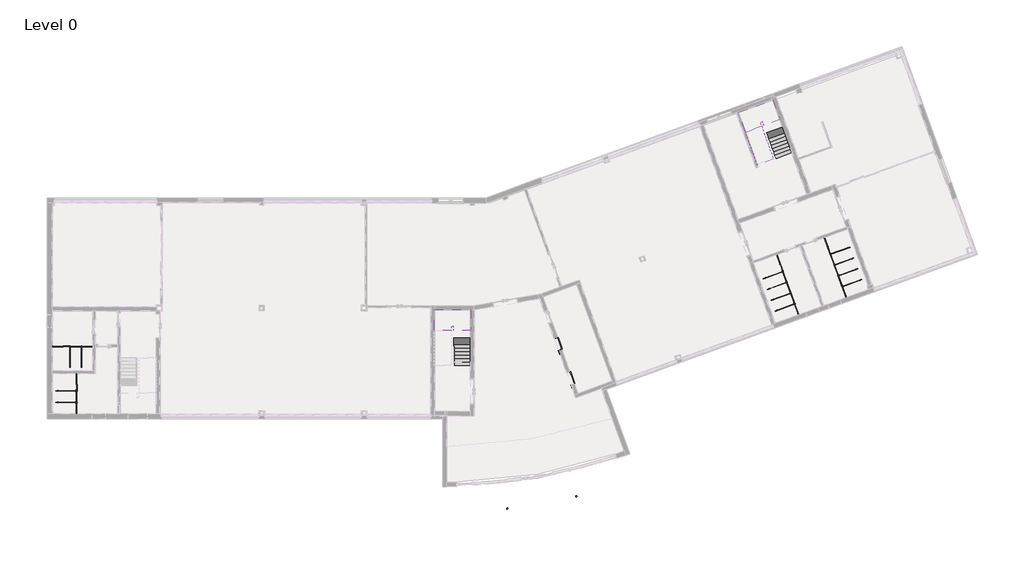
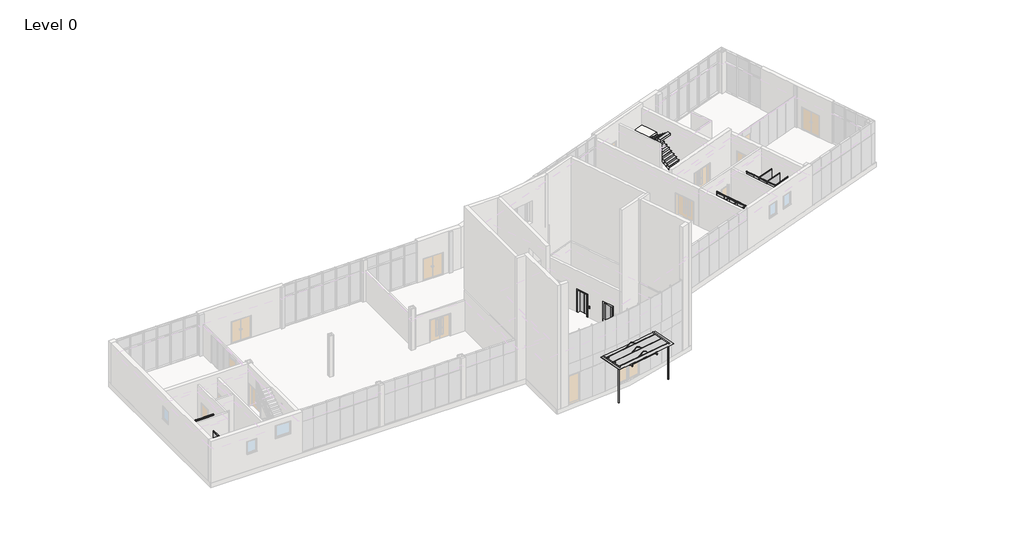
# One storey, part 14 of 14: 20 flow terminals, 3 proxies, 3 stair flights, 2 slabs.
"""IFC4 building model written with IfcOpenShell, lengths in millimetres."""

from ifc_helpers import new_model, si_unit, frame, origin, place, context, project, spatial, polyline, outline, extrude, faceted_brep, transform, mapped, element, save
from components import commercial_canopy_entrance_cladding_canopy_659b45ad, specialty_equipment_lift_assembly_13_person_wide_car_fb916a52, flow_terminal_2100mm_height_12b2e6eb, flow_terminal_2100mm_height_1f2eed72, flow_terminal_2100mm_height_0595ce71, flow_terminal_2100mm_height_2c32aa6e, flow_terminal_2100mm_height_6680c838, plumbing_fixtures_cubicle_corner_end_2100mm_height_8010d271, plumbing_fixtures_cubicle_corner_end_2100mm_height_71efdfa1

model = new_model("IFC4")

# Units and contexts
model_context = context("Model", 3, world=origin())
ifc_project = project(units=[si_unit("LENGTHUNIT", "METRE", prefix="MILLI")], contexts=[model_context])

# Site, building, storey
site = spatial("IfcSite", under=ifc_project)
building = spatial("IfcBuilding", under=site)
storey = spatial("IfcBuildingStorey", under=building, Name="Level 0", Elevation=0.0)

# Proxies
placement = place(None, origin())
commercial_canopy_entrance_cladding_canopy_shape = commercial_canopy_entrance_cladding_canopy_659b45ad(model_context)
element("IfcBuildingElementProxy", 1, Name="Commercial_Canopy_Entrance : Cladding_Canopy", ObjectType="Commercial_Canopy_Entrance : Cladding_Canopy", at=placement, inside=storey, context=model_context, shape_type="MappedRepresentation", body=[
    mapped(commercial_canopy_entrance_cladding_canopy_shape, transform((35218.8424739, -4156.0059595, 0.0), x_axis=(0.984821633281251, 0.1735694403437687, 0.0), y_axis=(-0.1735694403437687, 0.984821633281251, 0.0), z_axis=(0.0, 0.0, 1.0))),
])
specialty_equipment_lift_assembly_13_person_wide_car_shape = specialty_equipment_lift_assembly_13_person_wide_car_fb916a52(model_context)
element("IfcBuildingElementProxy", 2, Name="Specialty_Equipment_Lift_Assembly : 13_Person-Wide_Car", ObjectType="Specialty_Equipment_Lift_Assembly : 13_Person-Wide_Car", at=placement, inside=storey, context=model_context, shape_type="MappedRepresentation", body=[
    mapped(specialty_equipment_lift_assembly_13_person_wide_car_shape, transform((36402.6729068, 5528.4769863, 0.0), x_axis=(-0.34202014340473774, 0.9396926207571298, 0.0), y_axis=(-0.9396926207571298, -0.34202014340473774, 0.0), z_axis=(0.0, 0.0, 1.0))),
])
element("IfcBuildingElementProxy", 3, Name="Specialty_Equipment_Lift_Assembly : 13_Person-Wide_Car", ObjectType="Specialty_Equipment_Lift_Assembly : 13_Person-Wide_Car", at=placement, inside=storey, context=model_context, shape_type="MappedRepresentation", body=[
    mapped(specialty_equipment_lift_assembly_13_person_wide_car_shape, transform((37291.5468022, 3086.3160308, 0.0), x_axis=(-0.34202014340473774, 0.9396926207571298, 0.0), y_axis=(-0.9396926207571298, -0.34202014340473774, 0.0), z_axis=(0.0, 0.0, 1.0))),
])

# Flow terminals
flow_terminal_2100mm_height_shape = flow_terminal_2100mm_height_12b2e6eb(model_context)
element("IfcFlowTerminal", 4, ObjectType="Plumbing_Fixtures_Toilet_Cubicle_End_Adjacent_Wall : 2100mm_Height", at=placement, inside=storey, context=model_context, shape_type="MappedRepresentation", body=[
    mapped(flow_terminal_2100mm_height_shape, transform((50541.393351, 10685.9180507, 0.0), x_axis=(-0.3420201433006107, 0.9396926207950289, 0.0), y_axis=(-0.9396926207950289, -0.3420201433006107, 0.0), z_axis=(0.0, 0.0, 1.0))),
])
element("IfcFlowTerminal", 5, ObjectType="Plumbing_Fixtures_Toilet_Cubicle_End_Adjacent_Wall : 2100mm_Height", at=placement, inside=storey, context=model_context, shape_type="MappedRepresentation", body=[
    mapped(flow_terminal_2100mm_height_shape, transform((383.0, 2814.5689301, 0.0), x_axis=(2.5442148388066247e-11, 1.0, 0.0), y_axis=(-1.0, 2.5442148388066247e-11, 0.0), z_axis=(0.0, 0.0, 1.0))),
])
element("IfcFlowTerminal", 6, ObjectType="Plumbing_Fixtures_Toilet_Cubicle_End_Adjacent_Wall : 2100mm_Height", at=placement, inside=storey, context=model_context, shape_type="MappedRepresentation", body=[
    mapped(flow_terminal_2100mm_height_shape, transform((830.9310712, 3326.5000005, 0.0), x_axis=(-1.0, 2.5443536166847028e-11, 0.0), y_axis=(-2.5443536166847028e-11, -1.0, 0.0), z_axis=(0.0, 0.0, 1.0))),
])
flow_terminal_2100mm_height_2_shape = flow_terminal_2100mm_height_1f2eed72(model_context)
element("IfcFlowTerminal", 7, ObjectType="Plumbing_Fixtures_Toile_Cubicle_Extension_Panel : 2100mm_Height", at=placement, inside=storey, context=model_context, shape_type="MappedRepresentation", body=[
    mapped(flow_terminal_2100mm_height_2_shape, transform((50976.9218015, 9489.3134675, 0.0), x_axis=(-0.34202014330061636, 0.9396926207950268, 0.0), y_axis=(-0.9396926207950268, -0.34202014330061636, 0.0), z_axis=(0.0, 0.0, 1.0))),
])
flow_terminal_2100mm_height_3_shape = flow_terminal_2100mm_height_0595ce71(model_context)
element("IfcFlowTerminal", 8, ObjectType="Plumbing_Fixtures_Toile_Cubicle_Extension_Panel : 2100mm_Height", at=placement, inside=storey, context=model_context, shape_type="MappedRepresentation", body=[
    mapped(flow_terminal_2100mm_height_3_shape, transform((57719.2163556, 11943.3079956, 0.0), x_axis=(-0.3420201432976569, 0.9396926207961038, 0.0), y_axis=(-0.9396926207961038, -0.3420201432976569, 0.0), z_axis=(0.0, 0.0, 1.0))),
])
flow_terminal_2100mm_height_4_shape = flow_terminal_2100mm_height_2c32aa6e(model_context)
element("IfcFlowTerminal", 9, ObjectType="Plumbing_Fixtures_Toilet_Cubicle_End_Adjacent_Wall : 2100mm_Height", at=placement, inside=storey, context=model_context, shape_type="MappedRepresentation", body=[
    mapped(flow_terminal_2100mm_height_4_shape, transform((57283.6879051, 13139.9125789, 0.0), x_axis=(-0.3420201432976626, 0.9396926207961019, 0.0), y_axis=(-0.9396926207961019, -0.3420201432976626, 0.0), z_axis=(0.0, 0.0, 1.0))),
])
flow_terminal_2100mm_height_5_shape = flow_terminal_2100mm_height_6680c838(model_context)
element("IfcFlowTerminal", 10, ObjectType="Plumbing_Fixtures_Toile_Cubicle_Extension_Panel : 2100mm_Height", at=placement, inside=storey, context=model_context, shape_type="MappedRepresentation", body=[
    mapped(flow_terminal_2100mm_height_5_shape, transform((383.0, 1565.0689299, 0.0), x_axis=(0.0, 1.0, 0.0), y_axis=(-1.0, 0.0, 0.0), z_axis=(0.0, 0.0, 1.0))),
])
element("IfcFlowTerminal", 11, ObjectType="Plumbing_Fixtures_Toile_Cubicle_Extension_Panel : 2100mm_Height", at=placement, inside=storey, context=model_context, shape_type="MappedRepresentation", body=[
    mapped(flow_terminal_2100mm_height_5_shape, transform((2080.4310713, 3326.5000005, 0.0), x_axis=(-1.0, 0.0, 0.0), y_axis=(0.0, -1.0, 0.0), z_axis=(0.0, 0.0, 1.0))),
])
plumbing_fixtures_cubicle_corner_end_2100mm_height_shape = plumbing_fixtures_cubicle_corner_end_2100mm_height_8010d271(model_context)
element("IfcFlowTerminal", 12, ObjectType="Plumbing_Fixtures_Cubicle_Corner_End : 2100mm_Height", at=placement, inside=storey, context=model_context, shape_type="MappedRepresentation", body=[
    mapped(plumbing_fixtures_cubicle_corner_end_2100mm_height_shape, transform((58572.2617435, 9599.5850544, 0.0), x_axis=(0.3420201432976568, -0.9396926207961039, 0.0), y_axis=(0.9396926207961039, 0.3420201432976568, 0.0), z_axis=(0.0, 0.0, 1.0))),
])
element("IfcFlowTerminal", 13, ObjectType="Plumbing_Fixtures_Cubicle_Corner_End : 2100mm_Height", at=placement, inside=storey, context=model_context, shape_type="MappedRepresentation", body=[
    mapped(plumbing_fixtures_cubicle_corner_end_2100mm_height_shape, transform((58291.805226, 10370.1330034, 0.0), x_axis=(0.3420201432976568, -0.9396926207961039, 0.0), y_axis=(0.9396926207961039, 0.3420201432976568, 0.0), z_axis=(0.0, 0.0, 1.0))),
])
element("IfcFlowTerminal", 14, ObjectType="Plumbing_Fixtures_Cubicle_Corner_End : 2100mm_Height", at=placement, inside=storey, context=model_context, shape_type="MappedRepresentation", body=[
    mapped(plumbing_fixtures_cubicle_corner_end_2100mm_height_shape, transform((58011.3487085, 11140.6809525, 0.0), x_axis=(0.3420201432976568, -0.9396926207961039, 0.0), y_axis=(0.9396926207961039, 0.3420201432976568, 0.0), z_axis=(0.0, 0.0, 1.0))),
])
element("IfcFlowTerminal", 15, ObjectType="Plumbing_Fixtures_Cubicle_Corner_End : 2100mm_Height", at=placement, inside=storey, context=model_context, shape_type="MappedRepresentation", body=[
    mapped(plumbing_fixtures_cubicle_corner_end_2100mm_height_shape, transform((57730.892191, 11911.2289015, 0.0), x_axis=(0.3420201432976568, -0.9396926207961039, 0.0), y_axis=(0.9396926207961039, 0.3420201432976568, 0.0), z_axis=(0.0, 0.0, 1.0))),
])
plumbing_fixtures_cubicle_corner_end_2100mm_height_2_shape = plumbing_fixtures_cubicle_corner_end_2100mm_height_71efdfa1(model_context)
element("IfcFlowTerminal", 16, ObjectType="Plumbing_Fixtures_Cubicle_Corner_End : 2100mm_Height", at=placement, inside=storey, context=model_context, shape_type="MappedRepresentation", body=[
    mapped(plumbing_fixtures_cubicle_corner_end_2100mm_height_2_shape, transform((51829.9671894, 7145.5905262, 0.0), x_axis=(0.3420201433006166, -0.9396926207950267, 0.0), y_axis=(0.9396926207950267, 0.3420201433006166, 0.0), z_axis=(0.0, 0.0, 1.0))),
])
element("IfcFlowTerminal", 17, ObjectType="Plumbing_Fixtures_Cubicle_Corner_End : 2100mm_Height", at=placement, inside=storey, context=model_context, shape_type="MappedRepresentation", body=[
    mapped(plumbing_fixtures_cubicle_corner_end_2100mm_height_2_shape, transform((51549.5106719, 7916.1384753, 0.0), x_axis=(0.3420201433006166, -0.9396926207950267, 0.0), y_axis=(0.9396926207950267, 0.3420201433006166, 0.0), z_axis=(0.0, 0.0, 1.0))),
])
element("IfcFlowTerminal", 18, ObjectType="Plumbing_Fixtures_Cubicle_Corner_End : 2100mm_Height", at=placement, inside=storey, context=model_context, shape_type="MappedRepresentation", body=[
    mapped(plumbing_fixtures_cubicle_corner_end_2100mm_height_2_shape, transform((51269.0541544, 8686.6864243, 0.0), x_axis=(0.3420201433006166, -0.9396926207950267, 0.0), y_axis=(0.9396926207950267, 0.3420201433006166, 0.0), z_axis=(0.0, 0.0, 1.0))),
])
element("IfcFlowTerminal", 19, ObjectType="Plumbing_Fixtures_Cubicle_Corner_End : 2100mm_Height", at=placement, inside=storey, context=model_context, shape_type="MappedRepresentation", body=[
    mapped(plumbing_fixtures_cubicle_corner_end_2100mm_height_2_shape, transform((50988.5976369, 9457.2343734, 0.0), x_axis=(0.3420201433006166, -0.9396926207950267, 0.0), y_axis=(0.9396926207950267, 0.3420201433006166, 0.0), z_axis=(0.0, 0.0, 1.0))),
])
element("IfcFlowTerminal", 20, ObjectType="Plumbing_Fixtures_Cubicle_Corner_End : 2100mm_Height", at=placement, inside=storey, context=model_context, shape_type="MappedRepresentation", body=[
    mapped(plumbing_fixtures_cubicle_corner_end_2100mm_height_2_shape, transform((383.0, 710.9310711, 0.0), x_axis=(-2.5442148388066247e-11, -1.0, 0.0), y_axis=(1.0, -2.5442148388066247e-11, 0.0), z_axis=(0.0, 0.0, 1.0))),
])
element("IfcFlowTerminal", 21, ObjectType="Plumbing_Fixtures_Cubicle_Corner_End : 2100mm_Height", at=placement, inside=storey, context=model_context, shape_type="MappedRepresentation", body=[
    mapped(plumbing_fixtures_cubicle_corner_end_2100mm_height_2_shape, transform((383.0, 1530.9310711, 0.0), x_axis=(-2.5442148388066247e-11, -1.0, 0.0), y_axis=(1.0, -2.5442148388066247e-11, 0.0), z_axis=(0.0, 0.0, 1.0))),
])
element("IfcFlowTerminal", 22, ObjectType="Plumbing_Fixtures_Cubicle_Corner_End : 2100mm_Height", at=placement, inside=storey, context=model_context, shape_type="MappedRepresentation", body=[
    mapped(plumbing_fixtures_cubicle_corner_end_2100mm_height_2_shape, transform((2934.5689301, 3326.5000005, 0.0), x_axis=(1.0, -2.5443536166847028e-11, 0.0), y_axis=(2.5443536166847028e-11, 1.0, 0.0), z_axis=(0.0, 0.0, 1.0))),
])
element("IfcFlowTerminal", 23, ObjectType="Plumbing_Fixtures_Cubicle_Corner_End : 2100mm_Height", at=placement, inside=storey, context=model_context, shape_type="MappedRepresentation", body=[
    mapped(plumbing_fixtures_cubicle_corner_end_2100mm_height_2_shape, transform((2114.5689301, 3326.5000005, 0.0), x_axis=(1.0, -2.5443536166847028e-11, 0.0), y_axis=(2.5443536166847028e-11, 1.0, 0.0), z_axis=(0.0, 0.0, 1.0))),
])

# Slabs
element("IfcSlab", 24, ObjectType="8\"_Thickness", at=placement, inside=storey, context=model_context, shape_type="SolidModel", body=[
    faceted_brep([(29052.2000029, 6263.2000006, 1949.0), (30252.200003, 6263.2000006, 1949.0), (30252.200003, 6490.4719159, 1949.0), (30252.200003, 7763.2000004, 1949.0), (27662.2000031, 7763.2000004, 1949.0), (27662.2000031, 6285.9280852, 1949.0), (27662.2000031, 6263.2000006, 1949.0), (28862.2000029, 6263.2000006, 1949.0), (28862.2000029, 6285.9280852, 1949.0), (28862.2000029, 6563.2000006, 1949.0), (29052.2000029, 6563.2000006, 1949.0), (29052.2000029, 6490.4719159, 1949.0), (29052.2000029, 6263.2000006, 1587.8435509), (29052.2000029, 6263.2000006, 1771.7272727), (29052.2000029, 6563.2000006, 1749.0), (29052.2000029, 6490.4719159, 1749.0), (30252.200003, 6263.2000006, 1771.7272727), (30252.200003, 6263.2000006, 1587.8435509), (30252.200003, 6490.4719159, 1749.0), (30252.200003, 7763.2000004, 1749.0), (28862.2000029, 6263.2000006, 1765.1162782), (28862.2000029, 6285.9280852, 1749.0), (28862.2000029, 6563.2000006, 1749.0), (27662.2000031, 6285.9280852, 1749.0), (27662.2000031, 7763.2000004, 1749.0), (27662.2000031, 6263.2000006, 1765.1162782)], [[[0, 1, 2, 3, 4, 5, 6, 7, 8, 9, 10, 11]], [[12, 13, 0, 11, 10, 14, 15]], [[1, 16, 17, 18, 19, 3, 2]], [[7, 20, 21, 22, 9, 8]], [[18, 15, 14, 22, 21, 23, 24, 19]], [[15, 18, 17, 12]], [[23, 21, 20, 25]], [[1, 0, 13, 12, 17, 16]], [[4, 3, 19, 24]], [[4, 24, 23, 25, 6, 5]], [[7, 6, 25, 20]], [[10, 9, 22, 14]]]),
    extrude(outline(polyline([(29052.2000029, 6263.2000006), (29052.2000029, 6563.2000006), (28862.2000029, 6563.2000006), (28862.2000029, 6263.2000006), (27662.2000031, 6263.2000006), (27662.2000031, 7763.2000004), (30252.200003, 7763.2000004), (30252.200003, 6263.2000006), (29052.2000029, 6263.2000006)])), frame((0.0, 0.0, 1949.0), z_axis=(0.0, 0.0, 1.0), x_axis=(1.0, 0.0, 0.0)), (0.0, 0.0, 1.0), 1.0),
])
element("IfcSlab", 25, ObjectType="8\"_Thickness", at=placement, inside=storey, context=model_context, shape_type="SolidModel", body=[
    faceted_brep([(51174.021156, 20890.1085605, 1949.0), (52301.652301, 21300.5327324, 1949.0), (52223.920728, 21514.0984742, 1949.0), (51788.6220861, 22710.0716635, 1949.0), (49354.8181983, 21824.2394924, 1949.0), (49860.0749505, 20436.0579748, 1949.0), (49867.8484132, 20414.7005613, 1949.0), (50995.479558, 20825.1247332, 1949.0), (50987.7060952, 20846.4821467, 1949.0), (50892.873515, 21107.0325195, 1949.0), (51071.415113, 21172.0163467, 1949.0), (51096.2895829, 21103.6743022, 1949.0), (51174.021156, 20890.1085605, 1587.8435509), (51174.021156, 20890.1085605, 1771.7272727), (51071.415113, 21172.0163467, 1749.0), (51096.2895829, 21103.6743022, 1749.0), (52301.652301, 21300.5327324, 1771.7272727), (52301.652301, 21300.5327324, 1587.8435509), (52223.920728, 21514.0984742, 1749.0), (51788.6220861, 22710.0716635, 1749.0), (50995.479558, 20825.1247332, 1765.1162782), (50987.7060952, 20846.4821467, 1749.0), (50892.873515, 21107.0325195, 1749.0), (49860.0749505, 20436.0579748, 1749.0), (49354.8181983, 21824.2394924, 1749.0), (49867.8484132, 20414.7005613, 1765.1162782)], [[[0, 1, 2, 3, 4, 5, 6, 7, 8, 9, 10, 11]], [[12, 13, 0, 11, 10, 14, 15]], [[1, 16, 17, 18, 19, 3, 2]], [[7, 20, 21, 22, 9, 8]], [[18, 15, 14, 22, 21, 23, 24, 19]], [[15, 18, 17, 12]], [[23, 21, 20, 25]], [[1, 0, 13, 12, 17, 16]], [[4, 3, 19, 24]], [[4, 24, 23, 25, 6, 5]], [[7, 6, 25, 20]], [[10, 9, 22, 14]]]),
    extrude(outline(polyline([(51174.021156, 20890.1085605), (51071.415113, 21172.0163467), (50892.873515, 21107.0325195), (50995.479558, 20825.1247332), (49867.8484132, 20414.7005613), (49354.8181983, 21824.2394924), (51788.6220861, 22710.0716635), (52301.652301, 21300.5327324), (51174.021156, 20890.1085605)])), frame((0.0, 0.0, 1949.0), z_axis=(0.0, 0.0, 1.0), x_axis=(1.0, 0.0, 0.0)), (0.0, 0.0, 1.0), 1.0),
])

# Stair flights
element("IfcStairFlight", 26, ObjectType="1/16\"_Tread-6\"_Depth", at=placement, inside=storey, context=model_context, shape_type="SolidModel", body=[
    faceted_brep([(29052.2000029, 4013.2000006, 176.2727273), (29052.2000029, 3763.2000006, 176.2727273), (30252.200003, 3763.2000006, 176.2727273), (30252.200003, 4013.2000006, 176.2727273), (29052.2000029, 4013.2000006, 0.0), (29052.2000029, 3763.2000006, 0.0), (30252.200003, 3763.2000006, 0.0), (30252.200003, 4013.2000006, 0.0), (29052.2000029, 4263.2000006, 353.5454545), (29052.2000029, 4013.2000006, 353.5454545), (30252.200003, 4013.2000006, 353.5454545), (30252.200003, 4263.2000006, 353.5454545), (29052.2000029, 4263.2000006, 169.6617328), (29052.2000029, 4023.9334544, 0.0), (30252.200003, 4023.9334544, 0.0), (30252.200003, 4263.2000006, 169.6617328), (29052.2000029, 4513.2000006, 530.8181818), (29052.2000029, 4263.2000006, 530.8181818), (30252.200003, 4263.2000006, 530.8181818), (30252.200003, 4513.2000006, 530.8181818), (29052.2000029, 4513.2000006, 346.93446), (30252.200003, 4513.2000006, 346.93446), (29052.2000029, 4763.2000006, 708.0909091), (29052.2000029, 4513.2000006, 708.0909091), (30252.200003, 4513.2000006, 708.0909091), (30252.200003, 4763.2000006, 708.0909091), (29052.2000029, 4763.2000006, 524.2071873), (30252.200003, 4763.2000006, 524.2071873), (29052.2000029, 5013.2000006, 885.3636364), (29052.2000029, 4763.2000006, 885.3636364), (30252.200003, 4763.2000006, 885.3636364), (30252.200003, 5013.2000006, 885.3636364), (29052.2000029, 5013.2000006, 701.4799146), (30252.200003, 5013.2000006, 701.4799146), (29052.2000029, 5263.2000006, 1062.6363636), (29052.2000029, 5013.2000006, 1062.6363636), (30252.200003, 5013.2000006, 1062.6363636), (30252.200003, 5263.2000006, 1062.6363636), (29052.2000029, 5263.2000006, 878.7526418), (30252.200003, 5263.2000006, 878.7526418), (29052.2000029, 5513.2000006, 1239.9090909), (29052.2000029, 5263.2000006, 1239.9090909), (30252.200003, 5263.2000006, 1239.9090909), (30252.200003, 5513.2000006, 1239.9090909), (29052.2000029, 5513.2000006, 1056.0253691), (30252.200003, 5513.2000006, 1056.0253691), (29052.2000029, 5763.2000006, 1417.1818182), (29052.2000029, 5513.2000006, 1417.1818182), (30252.200003, 5513.2000006, 1417.1818182), (30252.200003, 5763.2000006, 1417.1818182), (29052.2000029, 5763.2000006, 1233.2980964), (30252.200003, 5763.2000006, 1233.2980964), (29052.2000029, 6013.2000006, 1594.4545455), (29052.2000029, 5763.2000006, 1594.4545455), (30252.200003, 5763.2000006, 1594.4545455), (30252.200003, 6013.2000006, 1594.4545455), (29052.2000029, 6013.2000006, 1410.5708237), (30252.200003, 6013.2000006, 1410.5708237), (29052.2000029, 6263.2000006, 1587.8435509), (30252.200003, 6263.2000006, 1587.8435509), (29052.2000029, 6263.2000006, 1771.7272727), (29052.2000029, 6013.2000006, 1771.7272727), (30252.200003, 6013.2000006, 1771.7272727), (30252.200003, 6263.2000006, 1771.7272727)], [[[0, 1, 2, 3]], [[1, 0, 4, 5]], [[2, 1, 5, 6]], [[3, 2, 6, 7]], [[8, 9, 10, 11]], [[4, 0, 9, 8, 12, 13]], [[0, 3, 10, 9]], [[3, 7, 14, 15, 11, 10]], [[16, 17, 18, 19]], [[17, 16, 20, 12, 8]], [[8, 11, 18, 17]], [[19, 18, 11, 15, 21]], [[22, 23, 24, 25]], [[23, 22, 26, 20, 16]], [[16, 19, 24, 23]], [[25, 24, 19, 21, 27]], [[28, 29, 30, 31]], [[29, 28, 32, 26, 22]], [[22, 25, 30, 29]], [[31, 30, 25, 27, 33]], [[34, 35, 36, 37]], [[35, 34, 38, 32, 28]], [[28, 31, 36, 35]], [[37, 36, 31, 33, 39]], [[40, 41, 42, 43]], [[41, 40, 44, 38, 34]], [[34, 37, 42, 41]], [[43, 42, 37, 39, 45]], [[46, 47, 48, 49]], [[47, 46, 50, 44, 40]], [[40, 43, 48, 47]], [[49, 48, 43, 45, 51]], [[52, 53, 54, 55]], [[53, 52, 56, 50, 46]], [[46, 49, 54, 53]], [[55, 54, 49, 51, 57]], [[5, 4, 13, 14, 7, 6]], [[14, 13, 12, 20, 26, 32, 38, 44, 50, 56, 58, 59, 57, 51, 45, 39, 33, 27, 21, 15]], [[60, 61, 62, 63]], [[61, 60, 58, 56, 52]], [[52, 55, 62, 61]], [[63, 62, 55, 57, 59]], [[60, 63, 59, 58]]]),
    extrude(outline(polyline([(29052.2000029, 4013.2000006), (30252.200003, 4013.2000006), (30252.200003, 3763.2000006), (29052.2000029, 3763.2000006), (29052.2000029, 4013.2000006)])), frame((0.0, 0.0, 176.2727273), z_axis=(0.0, 0.0, 1.0), x_axis=(1.0, 0.0, 0.0)), (0.0, 0.0, 1.0), 1.0),
    extrude(outline(polyline([(29052.2000029, 4263.2000006), (30252.200003, 4263.2000006), (30252.200003, 4013.2000006), (29052.2000029, 4013.2000006), (29052.2000029, 4263.2000006)])), frame((0.0, 0.0, 353.5454545), z_axis=(0.0, 0.0, 1.0), x_axis=(1.0, 0.0, 0.0)), (0.0, 0.0, 1.0), 1.0),
    extrude(outline(polyline([(29052.2000029, 4513.2000006), (30252.200003, 4513.2000006), (30252.200003, 4263.2000006), (29052.2000029, 4263.2000006), (29052.2000029, 4513.2000006)])), frame((0.0, 0.0, 530.8181818), z_axis=(0.0, 0.0, 1.0), x_axis=(1.0, 0.0, 0.0)), (0.0, 0.0, 1.0), 1.0),
    extrude(outline(polyline([(29052.2000029, 4763.2000006), (30252.200003, 4763.2000006), (30252.200003, 4513.2000006), (29052.2000029, 4513.2000006), (29052.2000029, 4763.2000006)])), frame((0.0, 0.0, 708.0909091), z_axis=(0.0, 0.0, 1.0), x_axis=(1.0, 0.0, 0.0)), (0.0, 0.0, 1.0), 1.0),
    extrude(outline(polyline([(29052.2000029, 5013.2000006), (30252.200003, 5013.2000006), (30252.200003, 4763.2000006), (29052.2000029, 4763.2000006), (29052.2000029, 5013.2000006)])), frame((0.0, 0.0, 885.3636364), z_axis=(0.0, 0.0, 1.0), x_axis=(1.0, 0.0, 0.0)), (0.0, 0.0, 1.0), 1.0),
    extrude(outline(polyline([(29052.2000029, 5263.2000006), (30252.200003, 5263.2000006), (30252.200003, 5013.2000006), (29052.2000029, 5013.2000006), (29052.2000029, 5263.2000006)])), frame((0.0, 0.0, 1062.6363636), z_axis=(0.0, 0.0, 1.0), x_axis=(1.0, 0.0, 0.0)), (0.0, 0.0, 1.0), 1.0),
    extrude(outline(polyline([(29052.2000029, 5513.2000006), (30252.200003, 5513.2000006), (30252.200003, 5263.2000006), (29052.2000029, 5263.2000006), (29052.2000029, 5513.2000006)])), frame((0.0, 0.0, 1239.9090909), z_axis=(0.0, 0.0, 1.0), x_axis=(1.0, 0.0, 0.0)), (0.0, 0.0, 1.0), 1.0),
    extrude(outline(polyline([(29052.2000029, 5763.2000006), (30252.200003, 5763.2000006), (30252.200003, 5513.2000006), (29052.2000029, 5513.2000006), (29052.2000029, 5763.2000006)])), frame((0.0, 0.0, 1417.1818182), z_axis=(0.0, 0.0, 1.0), x_axis=(1.0, 0.0, 0.0)), (0.0, 0.0, 1.0), 1.0),
    extrude(outline(polyline([(29052.2000029, 6013.2000006), (30252.200003, 6013.2000006), (30252.200003, 5763.2000006), (29052.2000029, 5763.2000006), (29052.2000029, 6013.2000006)])), frame((0.0, 0.0, 1594.4545455), z_axis=(0.0, 0.0, 1.0), x_axis=(1.0, 0.0, 0.0)), (0.0, 0.0, 1.0), 1.0),
    extrude(outline(polyline([(29052.2000029, 6263.2000006), (30252.200003, 6263.2000006), (30252.200003, 6013.2000006), (29052.2000029, 6013.2000006), (29052.2000029, 6263.2000006)])), frame((0.0, 0.0, 1771.7272727), z_axis=(0.0, 0.0, 1.0), x_axis=(1.0, 0.0, 0.0)), (0.0, 0.0, 1.0), 1.0),
])
element("IfcStairFlight", 27, ObjectType="1/16\"_Tread-6\"_Depth", at=placement, inside=storey, context=model_context, shape_type="SolidModel", body=[
    faceted_brep([(51943.5664784, 18775.8001637, 176.2727273), (52029.0715142, 18540.8770085, 176.2727273), (53156.7026593, 18951.3011804, 176.2727273), (53071.1976234, 19186.2243356, 176.2727273), (51943.5664784, 18775.8001637, 0.0), (52029.0715142, 18540.8770085, 0.0), (53156.7026593, 18951.3011804, 0.0), (53071.1976234, 19186.2243356, 0.0), (51858.0614426, 19010.7233189, 353.5454545), (51943.5664784, 18775.8001637, 353.5454545), (53071.1976234, 19186.2243356, 353.5454545), (52985.6925876, 19421.1474908, 353.5454545), (51858.0614426, 19010.7233189, 169.6617328), (51939.895421, 18785.886311, 0.0), (53067.526566, 19196.310483, 0.0), (52985.6925876, 19421.1474908, 169.6617328), (51772.5564067, 19245.6464741, 530.8181818), (51858.0614426, 19010.7233189, 530.8181818), (52985.6925876, 19421.1474908, 530.8181818), (52900.1875518, 19656.070646, 530.8181818), (51772.5564067, 19245.6464741, 346.93446), (52900.1875518, 19656.070646, 346.93446), (51687.0513709, 19480.5696293, 708.0909091), (51772.5564067, 19245.6464741, 708.0909091), (52900.1875518, 19656.070646, 708.0909091), (52814.682516, 19890.9938012, 708.0909091), (51687.0513709, 19480.5696293, 524.2071873), (52814.682516, 19890.9938012, 524.2071873), (51601.5463351, 19715.4927845, 885.3636364), (51687.0513709, 19480.5696293, 885.3636364), (52814.682516, 19890.9938012, 885.3636364), (52729.1774801, 20125.9169564, 885.3636364), (51601.5463351, 19715.4927845, 701.4799146), (52729.1774801, 20125.9169564, 701.4799146), (51516.0412993, 19950.4159397, 1062.6363636), (51601.5463351, 19715.4927845, 1062.6363636), (52729.1774801, 20125.9169564, 1062.6363636), (52643.6724443, 20360.8401116, 1062.6363636), (51516.0412993, 19950.4159397, 878.7526418), (52643.6724443, 20360.8401116, 878.7526418), (51430.5362634, 20185.3390949, 1239.9090909), (51516.0412993, 19950.4159397, 1239.9090909), (52643.6724443, 20360.8401116, 1239.9090909), (52558.1674085, 20595.7632668, 1239.9090909), (51430.5362634, 20185.3390949, 1056.0253691), (52558.1674085, 20595.7632668, 1056.0253691), (51345.0312276, 20420.2622501, 1417.1818182), (51430.5362634, 20185.3390949, 1417.1818182), (52558.1674085, 20595.7632668, 1417.1818182), (52472.6623727, 20830.686422, 1417.1818182), (51345.0312276, 20420.2622501, 1233.2980964), (52472.6623727, 20830.686422, 1233.2980964), (51259.5261918, 20655.1854053, 1594.4545455), (51345.0312276, 20420.2622501, 1594.4545455), (52472.6623727, 20830.686422, 1594.4545455), (52387.1573368, 21065.6095772, 1594.4545455), (51259.5261918, 20655.1854053, 1410.5708237), (52387.1573368, 21065.6095772, 1410.5708237), (51174.021156, 20890.1085605, 1587.8435509), (52301.652301, 21300.5327324, 1587.8435509), (51174.021156, 20890.1085605, 1771.7272727), (51259.5261918, 20655.1854053, 1771.7272727), (52387.1573368, 21065.6095772, 1771.7272727), (52301.652301, 21300.5327324, 1771.7272727)], [[[0, 1, 2, 3]], [[1, 0, 4, 5]], [[2, 1, 5, 6]], [[3, 2, 6, 7]], [[8, 9, 10, 11]], [[4, 0, 9, 8, 12, 13]], [[0, 3, 10, 9]], [[3, 7, 14, 15, 11, 10]], [[16, 17, 18, 19]], [[17, 16, 20, 12, 8]], [[8, 11, 18, 17]], [[19, 18, 11, 15, 21]], [[22, 23, 24, 25]], [[23, 22, 26, 20, 16]], [[16, 19, 24, 23]], [[25, 24, 19, 21, 27]], [[28, 29, 30, 31]], [[29, 28, 32, 26, 22]], [[22, 25, 30, 29]], [[31, 30, 25, 27, 33]], [[34, 35, 36, 37]], [[35, 34, 38, 32, 28]], [[28, 31, 36, 35]], [[37, 36, 31, 33, 39]], [[40, 41, 42, 43]], [[41, 40, 44, 38, 34]], [[34, 37, 42, 41]], [[43, 42, 37, 39, 45]], [[46, 47, 48, 49]], [[47, 46, 50, 44, 40]], [[40, 43, 48, 47]], [[49, 48, 43, 45, 51]], [[52, 53, 54, 55]], [[53, 52, 56, 50, 46]], [[46, 49, 54, 53]], [[55, 54, 49, 51, 57]], [[5, 4, 13, 14, 7, 6]], [[14, 13, 12, 20, 26, 32, 38, 44, 50, 56, 58, 59, 57, 51, 45, 39, 33, 27, 21, 15]], [[60, 61, 62, 63]], [[61, 60, 58, 56, 52]], [[52, 55, 62, 61]], [[63, 62, 55, 57, 59]], [[60, 63, 59, 58]]]),
    extrude(outline(polyline([(51943.5664784, 18775.8001637), (53071.1976234, 19186.2243356), (53156.7026593, 18951.3011804), (52029.0715142, 18540.8770085), (51943.5664784, 18775.8001637)])), frame((0.0, 0.0, 176.2727273), z_axis=(0.0, 0.0, 1.0), x_axis=(1.0, 0.0, 0.0)), (0.0, 0.0, 1.0), 1.0),
    extrude(outline(polyline([(51858.0614426, 19010.7233189), (52985.6925876, 19421.1474908), (53071.1976234, 19186.2243356), (51943.5664784, 18775.8001637), (51858.0614426, 19010.7233189)])), frame((0.0, 0.0, 353.5454545), z_axis=(0.0, 0.0, 1.0), x_axis=(1.0, 0.0, 0.0)), (0.0, 0.0, 1.0), 1.0),
    extrude(outline(polyline([(51772.5564067, 19245.6464741), (52900.1875518, 19656.070646), (52985.6925876, 19421.1474908), (51858.0614426, 19010.7233189), (51772.5564067, 19245.6464741)])), frame((0.0, 0.0, 530.8181818), z_axis=(0.0, 0.0, 1.0), x_axis=(1.0, 0.0, 0.0)), (0.0, 0.0, 1.0), 1.0),
    extrude(outline(polyline([(51687.0513709, 19480.5696293), (52814.682516, 19890.9938012), (52900.1875518, 19656.070646), (51772.5564067, 19245.6464741), (51687.0513709, 19480.5696293)])), frame((0.0, 0.0, 708.0909091), z_axis=(0.0, 0.0, 1.0), x_axis=(1.0, 0.0, 0.0)), (0.0, 0.0, 1.0), 1.0),
    extrude(outline(polyline([(51601.5463351, 19715.4927845), (52729.1774801, 20125.9169564), (52814.682516, 19890.9938012), (51687.0513709, 19480.5696293), (51601.5463351, 19715.4927845)])), frame((0.0, 0.0, 885.3636364), z_axis=(0.0, 0.0, 1.0), x_axis=(1.0, 0.0, 0.0)), (0.0, 0.0, 1.0), 1.0),
    extrude(outline(polyline([(51516.0412993, 19950.4159397), (52643.6724443, 20360.8401116), (52729.1774801, 20125.9169564), (51601.5463351, 19715.4927845), (51516.0412993, 19950.4159397)])), frame((0.0, 0.0, 1062.6363636), z_axis=(0.0, 0.0, 1.0), x_axis=(1.0, 0.0, 0.0)), (0.0, 0.0, 1.0), 1.0),
    extrude(outline(polyline([(51430.5362634, 20185.3390949), (52558.1674085, 20595.7632668), (52643.6724443, 20360.8401116), (51516.0412993, 19950.4159397), (51430.5362634, 20185.3390949)])), frame((0.0, 0.0, 1239.9090909), z_axis=(0.0, 0.0, 1.0), x_axis=(1.0, 0.0, 0.0)), (0.0, 0.0, 1.0), 1.0),
    extrude(outline(polyline([(51345.0312276, 20420.2622501), (52472.6623727, 20830.686422), (52558.1674085, 20595.7632668), (51430.5362634, 20185.3390949), (51345.0312276, 20420.2622501)])), frame((0.0, 0.0, 1417.1818182), z_axis=(0.0, 0.0, 1.0), x_axis=(1.0, 0.0, 0.0)), (0.0, 0.0, 1.0), 1.0),
    extrude(outline(polyline([(51259.5261918, 20655.1854053), (52387.1573368, 21065.6095772), (52472.6623727, 20830.686422), (51345.0312276, 20420.2622501), (51259.5261918, 20655.1854053)])), frame((0.0, 0.0, 1594.4545455), z_axis=(0.0, 0.0, 1.0), x_axis=(1.0, 0.0, 0.0)), (0.0, 0.0, 1.0), 1.0),
    extrude(outline(polyline([(51174.021156, 20890.1085605), (52301.652301, 21300.5327324), (52387.1573368, 21065.6095772), (51259.5261918, 20655.1854053), (51174.021156, 20890.1085605)])), frame((0.0, 0.0, 1771.7272727), z_axis=(0.0, 0.0, 1.0), x_axis=(1.0, 0.0, 0.0)), (0.0, 0.0, 1.0), 1.0),
])
element("IfcStairFlight", 28, ObjectType="1/16\"_Tread-6\"_Depth", at=placement, inside=storey, context=model_context, shape_type="SolidModel", body=[
    faceted_brep([(51080.9845938, 20590.201578, 2126.2727273), (50995.479558, 20825.1247332, 2126.2727273), (49867.8484132, 20414.7005613, 2126.2727273), (49953.3534491, 20179.7774061, 2126.2727273), (51080.9845938, 20590.201578, 1942.3890055), (50995.479558, 20825.1247332, 1765.1162782), (50995.479558, 20825.1247332, 1949.0), (49867.8484132, 20414.7005613, 1765.1162782), (49867.8484132, 20414.7005613, 1949.0), (49953.3534491, 20179.7774061, 1942.3890055), (51166.4896296, 20355.2784228, 2303.5454545), (51080.9845938, 20590.201578, 2303.5454545), (49953.3534491, 20179.7774061, 2303.5454545), (50038.8584849, 19944.8542509, 2303.5454545), (51166.4896296, 20355.2784228, 2119.6617328), (50038.8584849, 19944.8542509, 2119.6617328), (51251.9946655, 20120.3552676, 2480.8181818), (51166.4896296, 20355.2784228, 2480.8181818), (50038.8584849, 19944.8542509, 2480.8181818), (50124.3635207, 19709.9310957, 2480.8181818), (51251.9946655, 20120.3552676, 2296.93446), (50124.3635207, 19709.9310957, 2296.93446), (51337.4997013, 19885.4321124, 2658.0909091), (51251.9946655, 20120.3552676, 2658.0909091), (50124.3635207, 19709.9310957, 2658.0909091), (50209.8685565, 19475.0079405, 2658.0909091), (51337.4997013, 19885.4321124, 2474.2071873), (50209.8685565, 19475.0079405, 2474.2071873), (51423.0047371, 19650.5089572, 2835.3636364), (51337.4997013, 19885.4321124, 2835.3636364), (50209.8685565, 19475.0079405, 2835.3636364), (50295.3735924, 19240.0847853, 2835.3636364), (51423.0047371, 19650.5089572, 2651.4799146), (50295.3735924, 19240.0847853, 2651.4799146), (51508.5097729, 19415.585802, 3012.6363636), (51423.0047371, 19650.5089572, 3012.6363636), (50295.3735924, 19240.0847853, 3012.6363636), (50380.8786282, 19005.1616301, 3012.6363636), (51508.5097729, 19415.585802, 2828.7526418), (50380.8786282, 19005.1616301, 2828.7526418), (51594.0148088, 19180.6626468, 3189.9090909), (51508.5097729, 19415.585802, 3189.9090909), (50380.8786282, 19005.1616301, 3189.9090909), (50466.383664, 18770.2384749, 3189.9090909), (51594.0148088, 19180.6626468, 3006.0253691), (50466.383664, 18770.2384749, 3006.0253691), (51679.5198446, 18945.7394916, 3367.1818182), (51594.0148088, 19180.6626468, 3367.1818182), (50466.383664, 18770.2384749, 3367.1818182), (50551.8886998, 18535.3153197, 3367.1818182), (51679.5198446, 18945.7394916, 3183.2980964), (50551.8886998, 18535.3153197, 3183.2980964), (51765.0248804, 18710.8163364, 3544.4545455), (51679.5198446, 18945.7394916, 3544.4545455), (50551.8886998, 18535.3153197, 3544.4545455), (50637.3937356, 18300.3921645, 3544.4545455), (51765.0248804, 18710.8163364, 3360.5708237), (50637.3937356, 18300.3921645, 3360.5708237), (51850.5299162, 18475.8931812, 3537.8435509), (50722.8987715, 18065.4690093, 3537.8435509), (51850.5299162, 18475.8931812, 3721.7272727), (51765.0248804, 18710.8163364, 3721.7272727), (50637.3937356, 18300.3921645, 3721.7272727), (50722.8987715, 18065.4690093, 3721.7272727)], [[[0, 1, 2, 3]], [[1, 0, 4, 5, 6]], [[2, 1, 6, 5, 7, 8]], [[3, 2, 8, 7, 9]], [[10, 11, 12, 13]], [[11, 10, 14, 4, 0]], [[12, 11, 0, 3]], [[13, 12, 3, 9, 15]], [[16, 17, 18, 19]], [[17, 16, 20, 14, 10]], [[18, 17, 10, 13]], [[19, 18, 13, 15, 21]], [[22, 23, 24, 25]], [[23, 22, 26, 20, 16]], [[24, 23, 16, 19]], [[25, 24, 19, 21, 27]], [[28, 29, 30, 31]], [[29, 28, 32, 26, 22]], [[30, 29, 22, 25]], [[31, 30, 25, 27, 33]], [[34, 35, 36, 37]], [[35, 34, 38, 32, 28]], [[36, 35, 28, 31]], [[37, 36, 31, 33, 39]], [[40, 41, 42, 43]], [[41, 40, 44, 38, 34]], [[42, 41, 34, 37]], [[43, 42, 37, 39, 45]], [[46, 47, 48, 49]], [[47, 46, 50, 44, 40]], [[48, 47, 40, 43]], [[49, 48, 43, 45, 51]], [[52, 53, 54, 55]], [[53, 52, 56, 50, 46]], [[54, 53, 46, 49]], [[55, 54, 49, 51, 57]], [[5, 4, 14, 20, 26, 32, 38, 44, 50, 56, 58, 59, 57, 51, 45, 39, 33, 27, 21, 15, 9, 7]], [[60, 61, 62, 63]], [[61, 60, 58, 56, 52]], [[62, 61, 52, 55]], [[63, 62, 55, 57, 59]], [[60, 63, 59, 58]]]),
    extrude(outline(polyline([(51080.9845938, 20590.201578), (49953.3534491, 20179.7774061), (49867.8484132, 20414.7005613), (50995.479558, 20825.1247332), (51080.9845938, 20590.201578)])), frame((0.0, 0.0, 2126.2727273), z_axis=(0.0, 0.0, 1.0), x_axis=(1.0, 0.0, 0.0)), (0.0, 0.0, 1.0), 1.0),
    extrude(outline(polyline([(51166.4896296, 20355.2784228), (50038.8584849, 19944.8542509), (49953.3534491, 20179.7774061), (51080.9845938, 20590.201578), (51166.4896296, 20355.2784228)])), frame((0.0, 0.0, 2303.5454545), z_axis=(0.0, 0.0, 1.0), x_axis=(1.0, 0.0, 0.0)), (0.0, 0.0, 1.0), 1.0),
    extrude(outline(polyline([(51251.9946655, 20120.3552676), (50124.3635207, 19709.9310957), (50038.8584849, 19944.8542509), (51166.4896296, 20355.2784228), (51251.9946655, 20120.3552676)])), frame((0.0, 0.0, 2480.8181818), z_axis=(0.0, 0.0, 1.0), x_axis=(1.0, 0.0, 0.0)), (0.0, 0.0, 1.0), 1.0),
    extrude(outline(polyline([(51337.4997013, 19885.4321124), (50209.8685565, 19475.0079405), (50124.3635207, 19709.9310957), (51251.9946655, 20120.3552676), (51337.4997013, 19885.4321124)])), frame((0.0, 0.0, 2658.0909091), z_axis=(0.0, 0.0, 1.0), x_axis=(1.0, 0.0, 0.0)), (0.0, 0.0, 1.0), 1.0),
    extrude(outline(polyline([(51423.0047371, 19650.5089572), (50295.3735924, 19240.0847853), (50209.8685565, 19475.0079405), (51337.4997013, 19885.4321124), (51423.0047371, 19650.5089572)])), frame((0.0, 0.0, 2835.3636364), z_axis=(0.0, 0.0, 1.0), x_axis=(1.0, 0.0, 0.0)), (0.0, 0.0, 1.0), 1.0),
    extrude(outline(polyline([(51508.5097729, 19415.585802), (50380.8786282, 19005.1616301), (50295.3735924, 19240.0847853), (51423.0047371, 19650.5089572), (51508.5097729, 19415.585802)])), frame((0.0, 0.0, 3012.6363636), z_axis=(0.0, 0.0, 1.0), x_axis=(1.0, 0.0, 0.0)), (0.0, 0.0, 1.0), 1.0),
    extrude(outline(polyline([(51594.0148088, 19180.6626468), (50466.383664, 18770.2384749), (50380.8786282, 19005.1616301), (51508.5097729, 19415.585802), (51594.0148088, 19180.6626468)])), frame((0.0, 0.0, 3189.9090909), z_axis=(0.0, 0.0, 1.0), x_axis=(1.0, 0.0, 0.0)), (0.0, 0.0, 1.0), 1.0),
    extrude(outline(polyline([(51679.5198446, 18945.7394916), (50551.8886998, 18535.3153197), (50466.383664, 18770.2384749), (51594.0148088, 19180.6626468), (51679.5198446, 18945.7394916)])), frame((0.0, 0.0, 3367.1818182), z_axis=(0.0, 0.0, 1.0), x_axis=(1.0, 0.0, 0.0)), (0.0, 0.0, 1.0), 1.0),
    extrude(outline(polyline([(51765.0248804, 18710.8163364), (50637.3937356, 18300.3921645), (50551.8886998, 18535.3153197), (51679.5198446, 18945.7394916), (51765.0248804, 18710.8163364)])), frame((0.0, 0.0, 3544.4545455), z_axis=(0.0, 0.0, 1.0), x_axis=(1.0, 0.0, 0.0)), (0.0, 0.0, 1.0), 1.0),
    extrude(outline(polyline([(51850.5299162, 18475.8931812), (50722.8987715, 18065.4690093), (50637.3937356, 18300.3921645), (51765.0248804, 18710.8163364), (51850.5299162, 18475.8931812)])), frame((0.0, 0.0, 3721.7272727), z_axis=(0.0, 0.0, 1.0), x_axis=(1.0, 0.0, 0.0)), (0.0, 0.0, 1.0), 1.0),
])

save(model, "model.ifc")
